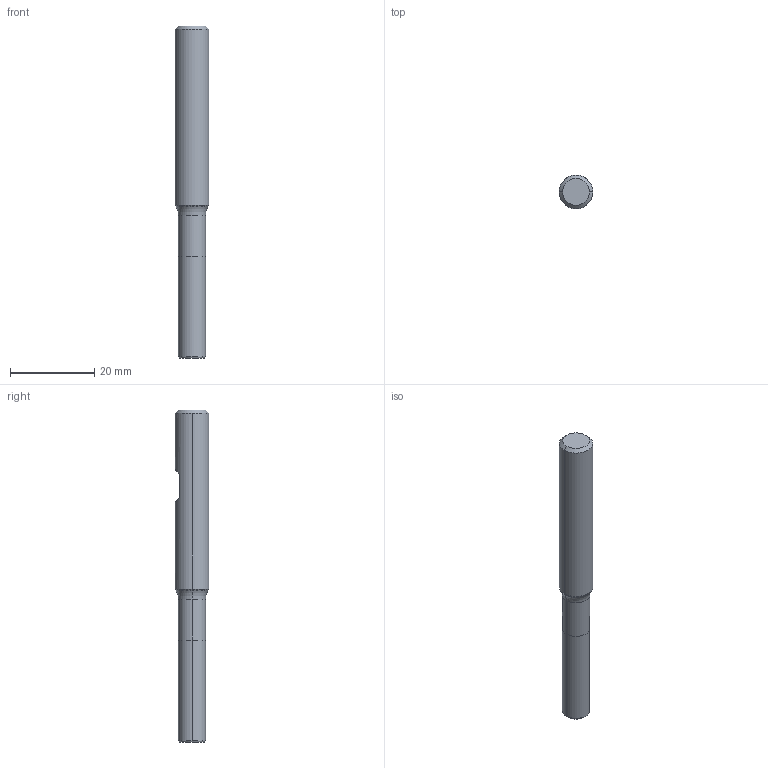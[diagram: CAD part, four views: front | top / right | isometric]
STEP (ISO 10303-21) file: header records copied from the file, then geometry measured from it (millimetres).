
FILE_DESCRIPTION (( 'STEP AP214' ), '1' );
FILE_NAME ('817.065.10_3D-model.step', '2022-02-23T23:27:47', ( '' ), ( '' ), 'SwSTEP 2.0', 'SolidWorks 2020', '' );
FILE_SCHEMA (( 'AUTOMOTIVE_DESIGN' ));
Length unit declared in the file: millimetre
Products named in the file (3): CUT-3D^Baugr73; NOCUT-3D^Baugr73; 817.065.10_3D-model
Assembly tree (2 placements, depth 2):
  817.065.10_3D-model
    CUT-3D^Baugr73
    NOCUT-3D^Baugr73
Bounding box: 8 x 8 x 79 mm (x, y, z)
Volume: 3327.7 mm3; surface area: 1955.4 mm2
Topology: 2 solids, 2 shells, 21 faces, 38 edges, 22 vertices
Faces by surface type: plane 7, cylinder 6, cone 6, torus 2
Entity records: 634 total; most frequent: DIRECTION 114, CARTESIAN_POINT 95, ORIENTED_EDGE 76, AXIS2_PLACEMENT_3D 49, EDGE_CURVE 38, EDGE_LOOP 22, VERTEX_POINT 22, ADVANCED_FACE 21
